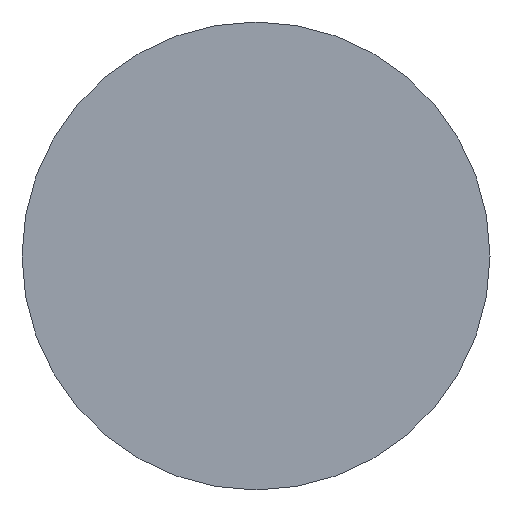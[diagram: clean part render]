
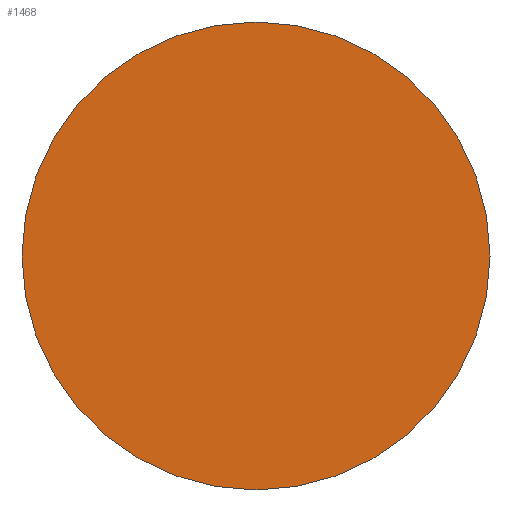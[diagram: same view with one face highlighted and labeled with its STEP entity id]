
A CAD part, front view. The second image highlights one B-rep face of the part: STEP entity #1468.
In plain terms, the highlighted planar face has unit normal (0, -1, 0).
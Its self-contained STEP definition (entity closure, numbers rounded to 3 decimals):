
#374 = CARTESIAN_POINT ( 'NONE',  ( -41., -30., 0. ) ) ;
#597 = EDGE_LOOP ( 'NONE', ( #736, #4119 ) ) ;
#736 = ORIENTED_EDGE ( 'NONE', *, *, #2733, .T. ) ;
#978 = AXIS2_PLACEMENT_3D ( 'NONE', #1411, #2049, #3029 ) ;
#986 = FACE_OUTER_BOUND ( 'NONE', #597, .T. ) ;
#1134 = CIRCLE ( 'NONE', #1687, 41. ) ;
#1267 = DIRECTION ( 'NONE',  ( 1., 0., 0. ) ) ;
#1411 = CARTESIAN_POINT ( 'NONE',  ( 0., -30., 0. ) ) ;
#1468 = ADVANCED_FACE ( 'NONE', ( #986 ), #3876, .T. ) ;
#1687 = AXIS2_PLACEMENT_3D ( 'NONE', #3418, #4006, #1795 ) ;
#1795 = DIRECTION ( 'NONE',  ( 1., 0., 0. ) ) ;
#2041 = EDGE_CURVE ( 'NONE', #2077, #3260, #2819, .T. ) ;
#2049 = DIRECTION ( 'NONE',  ( 0., -1., 0. ) ) ;
#2077 = VERTEX_POINT ( 'NONE', #374 ) ;
#2686 = AXIS2_PLACEMENT_3D ( 'NONE', #2864, #4251, #1267 ) ;
#2733 = EDGE_CURVE ( 'NONE', #3260, #2077, #1134, .T. ) ;
#2819 = CIRCLE ( 'NONE', #978, 41. ) ;
#2864 = CARTESIAN_POINT ( 'NONE',  ( 41., -30., 0. ) ) ;
#3018 = CARTESIAN_POINT ( 'NONE',  ( 41., -30., 0. ) ) ;
#3029 = DIRECTION ( 'NONE',  ( 1., 0., 0. ) ) ;
#3260 = VERTEX_POINT ( 'NONE', #3018 ) ;
#3418 = CARTESIAN_POINT ( 'NONE',  ( 0., -30., 0. ) ) ;
#3876 = PLANE ( 'NONE',  #2686 ) ;
#4006 = DIRECTION ( 'NONE',  ( 0., -1., 0. ) ) ;
#4119 = ORIENTED_EDGE ( 'NONE', *, *, #2041, .T. ) ;
#4251 = DIRECTION ( 'NONE',  ( 0., -1., 0. ) ) ;
